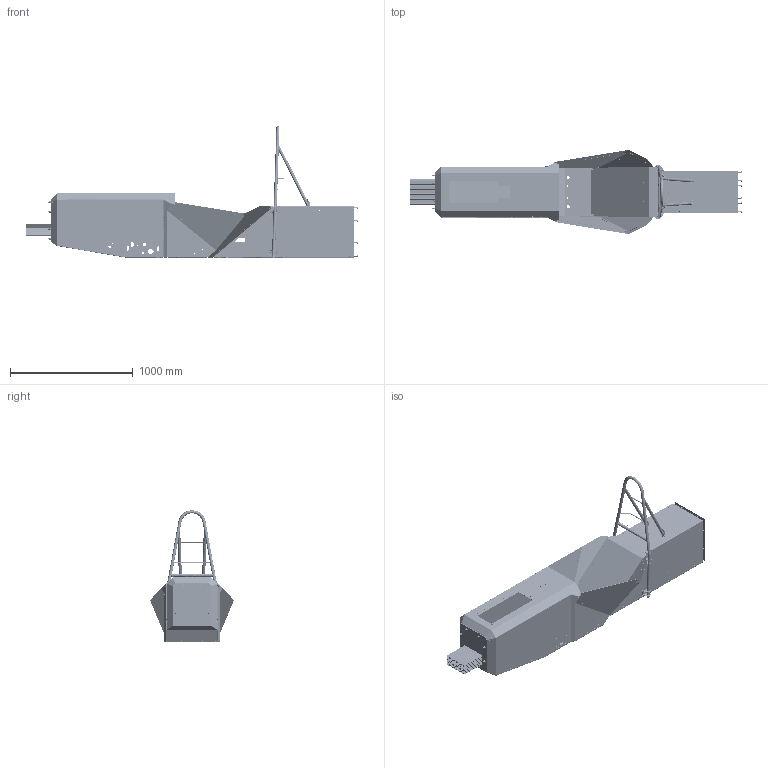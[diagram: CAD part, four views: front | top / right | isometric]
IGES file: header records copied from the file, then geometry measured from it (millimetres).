
Global section: file name: G:\.shortcut-targets-by-id\0B4Q-qvMPKEocVHFPeXFldDlFM2s\s3racing\CAD\CAD-s3-23e-Assembly\(M06 - CH) Chassis\(98)SE3D\masm_23e_chassis_igs_V3.igs; native system: NX V10.0; preprocessor: SIEMENS PLM Software NX 10.0; date: 20230607.173347; units: millimetre
Bounding box: 2709.12 x 686.82 x 1072.99 mm (x, y, z)
Surface area: 24019320.5 mm2 (no closed solid volume)
Topology: 0 solids, 0 shells, 13383 faces, 121450 edges, 118883 vertices
Faces by surface type: bspline 13371, offset 12
